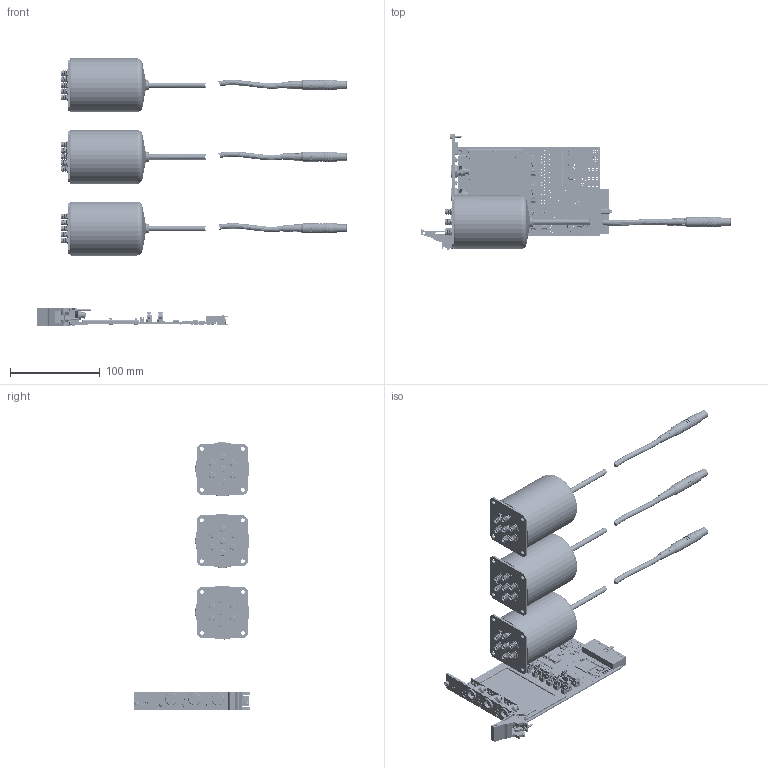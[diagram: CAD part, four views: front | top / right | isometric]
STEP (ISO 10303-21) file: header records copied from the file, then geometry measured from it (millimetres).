
FILE_DESCRIPTION (( 'STEP AP214' ), '1' );
FILE_NAME ('40-785C-523-TE PXI Microwave Multiplexer Triple SP6T 18 GHz 50 Ohm SMA Terminated Remote Mount Failsafe.step', '2024-01-16T15:17:19', ( '' ), ( '' ), 'SwSTEP 2.0', 'SolidWorks 2023', '' );
FILE_SCHEMA (( 'AUTOMOTIVE_DESIGN' ));
Length unit declared in the file: millimetre
Products named in the file (90): C-PC-1059 Microwave Ribbon PCB; C-FP-874 PXI 3U 1 SLOT 3 x SNAP OUD; A-PC-1055 LED PCB Microwave Realy; C-RS-756 RES 0R 0603  200PPM; C-CP-134 CAP 1uF CERAMIC SMT 0805; C-SC-097 DIODE ARRAY SOT-363 SMT; Z-FX-2001 FP Fixing - Bush + Screw; C-RS-152 Res 10K 0603 1-16W 1% 300PPM; C-CN-887 2 X8 WAY HEADER MALE STRAIGHT_AIRFLOW; C-IC-611 8-Bit Shift Register 16-Pin; A-FP-874 PXI 1 SLT 3x8way Mini Snap FP+Label Assy; C-SC-146 Dual Transistor SOT-14; C-IC-489 F-RAM Semiconductor Serial-I2C FRAM Memory 512kbit 2-3.6 V 8-Pin SOIC; C-PC-1133 uWave Relay Interface Card; C-FX-042 Screw M2.5x6 CSK Pozi_M 2.5x06 - C-FX-042; C-RS-521 Res 120R (0603) 1-16W 1% 100pp; C-FX-1111 SANDBLASTED uWave Driver Seated Mounting Panel; C-RS-190 Res 0R0 SIZE 0603 SMT; L-FP-874 PXI 1 SLT FP Label Assy; C-MS-319 Remote Relay Cable_Cut; C-BP-015 PXI 3U x 1 Slot Blank Panel; C-CP-099 CAP 0.1uF 16V 0402 SMT; C-FX-432 M2.5 x 6mm Slotted Screw with Vibra Fix Solution; A-PC-1360-A-# PXI 4x-78y uWave Relay Driver; C-MS-618 Feet Adhesive Clear; P-FX-017 M2,5 Collar Posi-Slot Screw; C-MS-717 Ferrite Chip Bead; C-CN-897 2x8 way Connector 1.27 pitch; C-FX-165 Handle Body; C-FX-396 M2.5 x 4mm Countersink screw; C-CP-141 CAP 10UF 1206 35V X5R 10%; C-CN-1132-Base; C-SC-147 BLUE LED 0603; C-MS-803 BEAD 120R 0603 2A 0R05 25%; C-RS-148 Res 1K 0603 1-16W 1% 100PPM; A-PC-1059-# Microwave Ribbon PCB Assy; C-RS-146 Res 4K7 0603 1-16W 1% 100PPM; C-CP-034; C-IC-425 SOICN 8PIN SD; C-RS-363 RES 2K7 SMT 0603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
Assembly tree (276 placements, depth 5):
  40-785C-523-TE PXI Microwave Multiplexer Triple SP6T 18 GHz 50 Ohm SMA Terminated Remote Mount Failsafe
    A-PC-1360-A PXI 4x-78y uWave Relay Driver
      A-PC-1360-A-# PXI 4x-78y uWave Relay Driver
        C-PC-1360 PXI 4x-78y uWave Relay Driver
        C-RS-756 RES 0R 0603  200PPM
        C-IC-425 SOICN 8PIN SD  x2
        C-RS-363 RES 2K7 SMT 0603
        C-RS-146 Res 4K7 0603 1-16W 1% 100PPM
        C-CP-034  x20
        C-CP-239  Power Line Filter  x3
        C-IC-489 F-RAM Semiconductor Serial-I2C FRAM Memory 512kbit 2-3.6 V 8-Pin SOIC
        C-IC-546 24 BIT BUS SWITCH 56PIN TVSOP  x2
        C-RS-152 Res 10K 0603 1-16W 1% 300PPM  x2
        C-RS-190 Res 0R0 SIZE 0603 SMT
        C-RS-147 Res 100R 0603 1-16W 1% 100PPM
        C-CP-124 CAP 10nF CERAMIC SMT 0402  x30
        C-CP-099 CAP 0.1uF 16V 0402 SMT  x14
        C-IC-330 SOURCE DRIVER  x3
        C-IC-611 8-Bit Shift Register 16-Pin  x3
        C-RS-079 Fixed Network Resistor, 10 kohm, 4 Elements, Isolated, 1206 IMP or 3216 Metric, 8 Pins  x6
        C-MS-717 Ferrite Chip Bead  x24
        C-CN-861 1 x 2 Way Header   x8
        C-CN-887 2 X8 WAY HEADER MALE STRAIGHT_AIRFLOW  x4
        C-CP-175 CAP 22uF 1206 25V X5R 10%  x2
        C-CP-141 CAP 10UF 1206 35V X5R 10%  x7
        C-IC-369 FPGA 17000 Cells 65nm Technology 1.2V 256-Pin FTBGA
        C-IC-458 LDO VOLTAGE REGULATOR 1.2V SOT
        C-IC-598 64Mbit Flash Memory 8-Pin SOIC
        C-RS-659 RES NW 4K7 4RES 8PINS SMT1206  x4
        C-RS-521 Res 120R (0603) 1-16W 1% 100pp
        C-MS-803 BEAD 120R 0603 2A 0R05 25%  x2
        C-CN-1071
          C-CN-107-BODY
          C-CN-107-PIN  x8
        C-CP-134 CAP 1uF CERAMIC SMT 0805  x2
        C-CP-139 CAP 4.7UF 1206 16V X7R 10%  x2
        C-IC-442 VSSOP 8PIN SD
        C-RS-148 Res 1K 0603 1-16W 1% 100PPM  x2
        C-SC-146 Dual Transistor SOT-14  x2
        C-CN-355 Compact pci connector 3_Render
    A-FP-874-L1 PXI 1 SLT 3x8 way mini snap FP Full Assembly
      A-FP-874 PXI 1 SLT 3x8way Mini Snap FP+Label Assy
        C-FP-874 PXI 3U 1 SLOT 3 x SNAP OUD
          C-BP-015 PXI 3U x 1 Slot Blank Panel
        L-FP-874 PXI 1 SLT FP Label Assy
          L-FP-874-# PXI 1 SLT 3x8 Way Minisnap FP Label
      C-FX-165 CPCI Ejector Handle
        C-FX-165 Handle Body
        C-FX-165 Handle Finger
        C-FX-165 Handle Pin
        P-FX-017 M2,5 Collar Posi-Slot Screw
        L-FX-165 PXI Handle Label
      Z-FX-2001 FP Fixing - Bush + Screw
        C-BK-026 Bush Front Panel Mounting
        P-FX-017 M2,5 Collar Posi-Slot Screw
      C-FX-025 Pcb Mounting Bracket
      C-FX-042 Screw M2.5x6 CSK Pozi_M 2.5x06 - C-FX-042
      C-FX-101 Screw, M2.5 x 6, Pan Hd, Pozi, Steel, BZP
      C-FX-396 M2.5 x 4mm Countersink screw  x3
    A-PC-1055 LED PCB Microwave Realy  x3
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Bounding box: 346.55 x 129.63 x 298.7 mm (x, y, z)
Volume: 560523 mm3; surface area: 300939.9 mm2
Topology: 585 solids, 614 shells, 29827 faces, 74078 edges, 46882 vertices
Faces by surface type: plane 19529, cylinder 7520, cone 1159, bspline 869, torus 664, sphere 86
Entity records: 536073 total; most frequent: CARTESIAN_POINT 96714, DIRECTION 67570, ORIENTED_EDGE 65710, EDGE_CURVE 32859, AXIS2_PLACEMENT_3D 23311, VECTOR 20948, LINE 20948, VERTEX_POINT 20812
